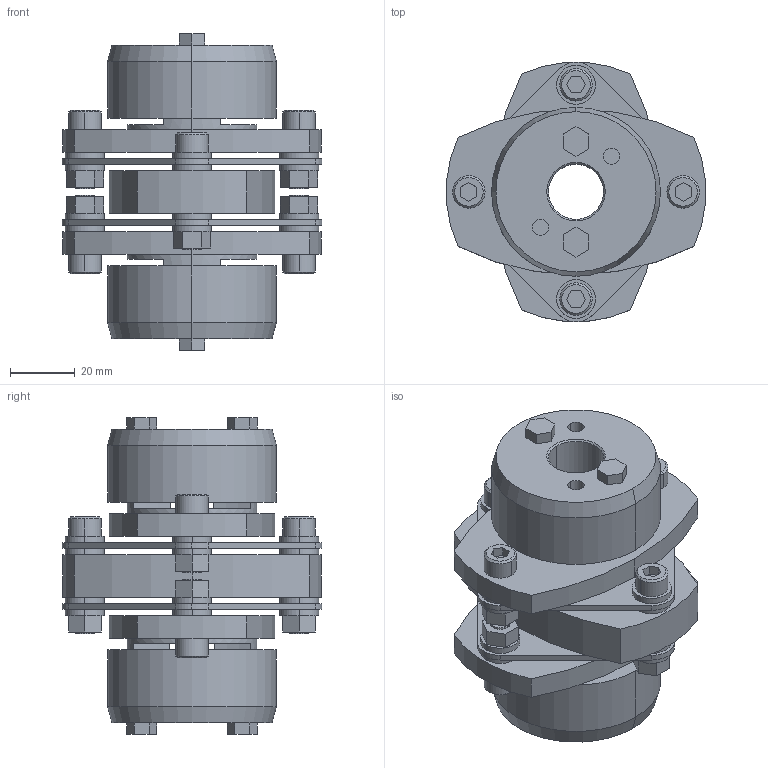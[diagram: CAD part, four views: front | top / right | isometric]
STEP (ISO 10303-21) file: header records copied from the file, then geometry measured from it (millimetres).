
FILE_DESCRIPTION((''),'2;1');
FILE_NAME('LCD-80T7-17×18.stp','2011-09-12T17:11:21',(''),(''),'AutoCAD STEP 2000i','AutoCAD 2000i',', , ');
FILE_SCHEMA(('CONFIG_CONTROL_DESIGN'));
Length unit declared in the file: millimetre
Products named in the file (5): LCD-80T7-17×17; 忣兜1; LC80T7-T017-1; LC80T7-T017; LCD80-ITA
Assembly tree (4 placements, depth 2):
  LCD-80T7-17×17
    忣兜1
    LC80T7-T017-1
    LC80T7-T017
    LCD80-ITA
Bounding box: 80 x 79.95 x 97.5 mm (x, y, z)
Volume: 183009.3 mm3; surface area: 56734.2 mm2
Topology: 1 solids, 1 shells, 306 faces, 744 edges, 488 vertices
Faces by surface type: plane 162, cylinder 120, cone 24
Entity records: 9219 total; most frequent: DIRECTION 1646, CARTESIAN_POINT 1543, ORIENTED_EDGE 1488, EDGE_CURVE 744, AXIS2_PLACEMENT_3D 591, VERTEX_POINT 488, VECTOR 464, LINE 464
